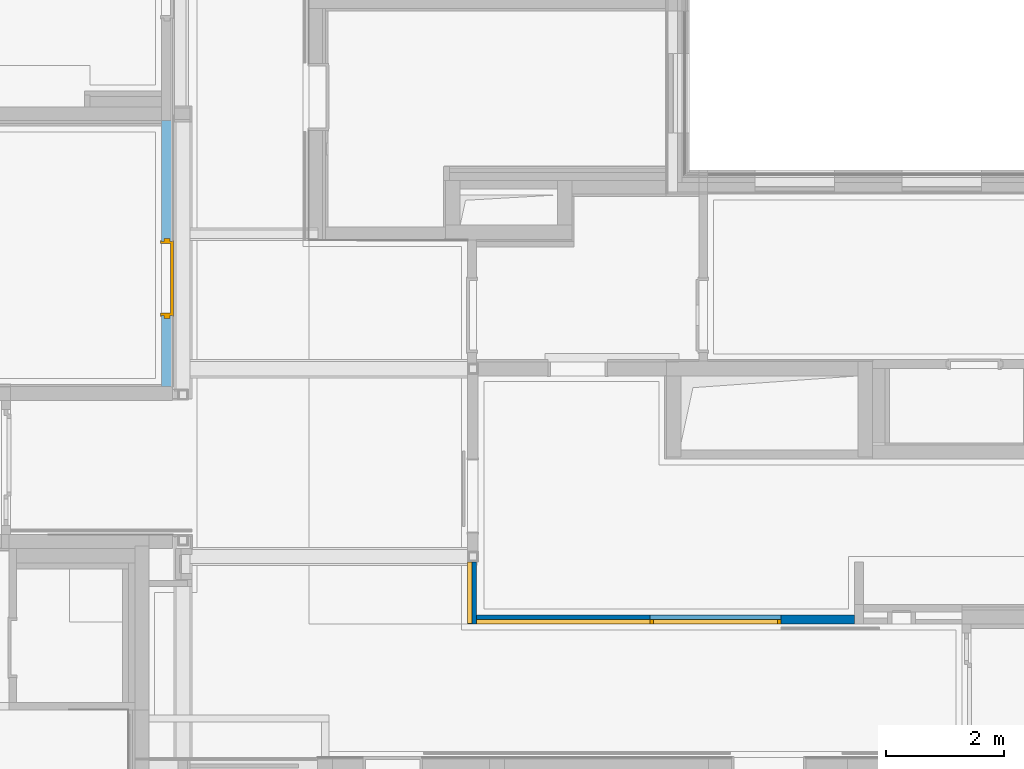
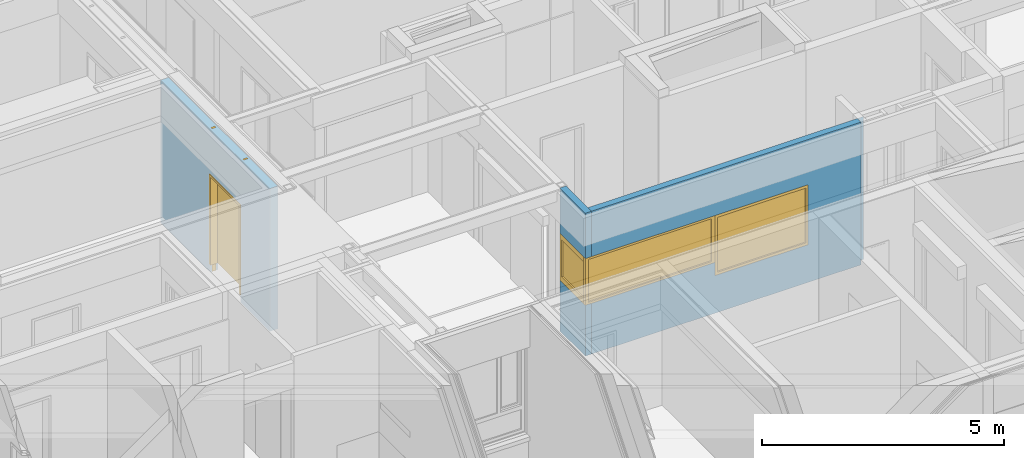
# One storey, part 90 of 207: 3 windows, 2 walls, 1 door, 4 openings, plus 1 element that does not belong to this part.
"""IFC4 building model written with IfcOpenShell, lengths in metres."""

from ifc_helpers import new_model, entity, si_unit, converted_unit, derived_unit, frame, frame_2d, origin, origin_with_axes, place, context, subcontext, project, spatial, polyline, rectangle, outline, extrude, closed_shell, open_shell, faceted_brep, surface_model, source, transform, mapped, material, type_object, element, fill, save


model = new_model("IFC4")

# Units and contexts
model_context = context("Model", 3, precision=1e-05, world=origin())
body_context = subcontext(model_context, "Body", "Model", "MODEL_VIEW")
ifc_project = project(units=[si_unit("LENGTHUNIT", "METRE"), si_unit("AREAUNIT", "SQUARE_METRE"), si_unit("VOLUMEUNIT", "CUBIC_METRE"), si_unit("MASSUNIT", "GRAM", prefix="KILO"), converted_unit("PLANEANGLEUNIT", "DEGREE", entity("IfcPlaneAngleMeasure", 0.0174532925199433), si_unit("PLANEANGLEUNIT", "RADIAN"), dimensions=[0, 0, 0, 0, 0, 0, 0]), derived_unit("THERMALTRANSMITTANCEUNIT", [(si_unit("POWERUNIT", "WATT"), 1), (si_unit("THERMODYNAMICTEMPERATUREUNIT", "KELVIN"), -1), (si_unit("LENGTHUNIT", "METRE"), -2)]), derived_unit("VOLUMETRICFLOWRATEUNIT", [(si_unit("LENGTHUNIT", "METRE"), 3), (converted_unit("TIMEUNIT", "hour", entity("IfcTimeMeasure", 3600.0), si_unit("TIMEUNIT", "SECOND"), dimensions=[0, 0, 1, 0, 0, 0, 0]), -1), (si_unit("LENGTHUNIT", "METRE"), -1)])], contexts=[model_context])

# Site, building, storey
site_placement = place(None, origin())
site = spatial("IfcSite", under=ifc_project, at=site_placement, Name="Psychiatrie Neubau Wunstorf", CompositionType="ELEMENT")
building_placement = place(site_placement, origin())
building = spatial("IfcBuilding", under=site, at=building_placement, Name="Neubau H2 Stationsgebäude", CompositionType="ELEMENT")
storey_placement = place(building_placement, frame((0.0, 0.0, -0.2)))
storey = spatial("IfcBuildingStorey", under=building, at=storey_placement, Name="H2 Ebene 0", CompositionType="ELEMENT", Elevation=-0.2)

# Wall, opening, door
ifc_material_1 = material(Name="WI-LB")
wall_1_placement = place(storey_placement, frame((35.57, 6.844, 0.0), z_axis=(0.0, 0.0, 1.0), x_axis=(0.0, 1.0, 0.0)))
wall_1 = element("IfcWall", 1, at=wall_1_placement, inside=storey, material=ifc_material_1, context=body_context, shape_type="SweptSolid", body=[
    extrude(rectangle(XDim=4.51355754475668, YDim=0.19, at=frame_2d((2.25677877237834, 0.095), x_axis=(1.0, 0.0))), origin_with_axes(), (0.0, 0.0, 1.0), 3.6),
])
opening_1_placement = place(wall_1_placement, frame((2.4660041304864, 0.19, 0.0), z_axis=(0.0, -1.0, 0.0), x_axis=(0.0, 0.0, 1.0)))
opening_1 = element("IfcOpeningElement", 2, at=opening_1_placement, cuts=wall_1, Name="Türöffnung", ObjectType="Opening", context=body_context, shape_type="SweptSolid", body=[
    extrude(outline(polyline([(2.46, 1.26), (2.46, 0.0), (0.0, 0.0), (0.0, 1.26), (2.46, 1.26)])), origin_with_axes(), (0.0, 0.0, 1.0), 0.19),
])
ifc_material_2 = material(Name="TI-1F-UZ-D")
door_type = type_object("IfcDoorType", Name="SMT", OperationType="SINGLE_SWING_RIGHT", ParameterTakesPrecedence=False, PredefinedType="DOOR")
shared_shape_1 = source(origin_with_axes(), body_context, "Body", "Brep", [
    faceted_brep([(1.30999999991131, 0.0449999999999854, 0.0), (1.30999999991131, 0.144999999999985, 0.0), (1.26, 0.144999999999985, 0.0), (1.26, 0.0449999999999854, 0.0), (1.30999999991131, 0.144999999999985, 3.6), (1.30999999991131, 0.0449999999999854, 3.6), (1.26, 0.0449999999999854, 3.6), (1.26, 0.144999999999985, 3.6)], [[[0, 1, 2, 3]], [[4, 5, 6, 7]], [[1, 0, 5, 4]], [[2, 1, 4, 7]], [[3, 2, 7, 6]], [[0, 3, 6, 5]]], orient=[[False], [False], [False], [False], [False], [False]]),
    faceted_brep([(0.0, 0.0449999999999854, 0.0), (0.0, 0.144999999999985, 0.0), (-0.0499999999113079, 0.144999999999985, 0.0), (-0.0499999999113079, 0.0449999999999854, 0.0), (0.0, 0.144999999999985, 3.6), (0.0, 0.0449999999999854, 3.6), (-0.0499999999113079, 0.0449999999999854, 3.6), (-0.0499999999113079, 0.144999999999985, 3.6)], [[[0, 1, 2, 3]], [[4, 5, 6, 7]], [[1, 0, 5, 4]], [[2, 1, 4, 7]], [[3, 2, 7, 6]], [[0, 3, 6, 5]]], orient=[[False], [False], [False], [False], [False], [False]]),
    faceted_brep([(1.26, 0.0449999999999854, 2.46), (1.26, 0.144999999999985, 2.46), (0.0, 0.144999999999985, 2.46), (0.0, 0.0449999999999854, 2.46), (1.26, 0.144999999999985, 2.51), (1.26, 0.0449999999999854, 2.51), (0.0, 0.0449999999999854, 2.51), (0.0, 0.144999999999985, 2.51)], [[[0, 1, 2, 3]], [[4, 5, 6, 7]], [[1, 0, 5, 4]], [[2, 1, 4, 7]], [[3, 2, 7, 6]], [[0, 3, 6, 5]]], orient=[[False], [False], [False], [False], [False], [False]]),
])
shared_shape_2 = source(origin_with_axes(), body_context, "Body", "Brep", [
    faceted_brep([(0.0, -0.0150000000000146, 2.46), (0.0400000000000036, -0.0150000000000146, 2.46), (0.0400000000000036, -0.0150000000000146, 0.2), (0.0, -0.0150000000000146, 0.2), (0.0, 0.204999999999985, 0.2), (0.0400000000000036, 0.204999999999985, 0.2), (0.0400000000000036, 0.204999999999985, 2.46), (0.0, 0.204999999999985, 2.46)], [[[0, 1, 2, 3]], [[4, 5, 6, 7]], [[3, 4, 7, 0]], [[2, 5, 4, 3]], [[1, 6, 5, 2]], [[0, 7, 6, 1]]], orient=[[False], [False], [False], [False], [False], [False]]),
    faceted_brep([(0.0, -0.0150000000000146, 2.475), (0.0, -0.0150000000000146, 0.2), (-0.0149999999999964, -0.0150000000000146, 0.2), (-0.0149999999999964, -0.0150000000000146, 2.475), (0.0, 0.0, 0.2), (0.0, 0.0, 2.475), (-0.0149999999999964, 0.0, 2.475), (-0.0149999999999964, 0.0, 0.2)], [[[0, 1, 2, 3]], [[4, 5, 6, 7]], [[1, 0, 5, 4]], [[2, 1, 4, 7]], [[3, 2, 7, 6]], [[0, 3, 6, 5]]], orient=[[False], [False], [False], [False], [False], [False]]),
    faceted_brep([(0.0, 0.189999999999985, 2.475), (0.0, 0.189999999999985, 0.2), (-0.0149999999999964, 0.189999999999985, 0.2), (-0.0149999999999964, 0.189999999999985, 2.475), (0.0, 0.204999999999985, 0.2), (0.0, 0.204999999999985, 2.475), (-0.0149999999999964, 0.204999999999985, 2.475), (-0.0149999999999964, 0.204999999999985, 0.2)], [[[0, 1, 2, 3]], [[4, 5, 6, 7]], [[1, 0, 5, 4]], [[2, 1, 4, 7]], [[3, 2, 7, 6]], [[0, 3, 6, 5]]], orient=[[False], [False], [False], [False], [False], [False]]),
    faceted_brep([(1.22, -0.0150000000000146, 2.46), (1.26, -0.0150000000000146, 2.46), (1.26, -0.0150000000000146, 0.2), (1.22, -0.0150000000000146, 0.2), (1.22, 0.204999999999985, 0.2), (1.26, 0.204999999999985, 0.2), (1.26, 0.204999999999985, 2.46), (1.22, 0.204999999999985, 2.46)], [[[0, 1, 2, 3]], [[4, 5, 6, 7]], [[3, 4, 7, 0]], [[2, 5, 4, 3]], [[1, 6, 5, 2]], [[0, 7, 6, 1]]], orient=[[False], [False], [False], [False], [False], [False]]),
    faceted_brep([(1.26, -0.0150000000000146, 2.475), (1.275, -0.0150000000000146, 2.475), (1.275, -0.0150000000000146, 0.2), (1.26, -0.0150000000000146, 0.2), (1.26, 0.0, 0.2), (1.275, 0.0, 0.2), (1.275, 0.0, 2.475), (1.26, 0.0, 2.475)], [[[0, 1, 2, 3]], [[4, 5, 6, 7]], [[3, 4, 7, 0]], [[2, 5, 4, 3]], [[1, 6, 5, 2]], [[0, 7, 6, 1]]], orient=[[False], [False], [False], [False], [False], [False]]),
    faceted_brep([(1.26, 0.189999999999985, 2.475), (1.275, 0.189999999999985, 2.475), (1.275, 0.189999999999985, 0.2), (1.26, 0.189999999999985, 0.2), (1.26, 0.204999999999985, 0.2), (1.275, 0.204999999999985, 0.2), (1.275, 0.204999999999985, 2.475), (1.26, 0.204999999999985, 2.475)], [[[0, 1, 2, 3]], [[4, 5, 6, 7]], [[3, 4, 7, 0]], [[2, 5, 4, 3]], [[1, 6, 5, 2]], [[0, 7, 6, 1]]], orient=[[False], [False], [False], [False], [False], [False]]),
    faceted_brep([(0.0400000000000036, -0.0150000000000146, 2.46), (1.22, -0.0150000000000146, 2.46), (1.22, -0.0150000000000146, 2.42), (0.0400000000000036, -0.0150000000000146, 2.42), (0.0400000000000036, 0.204999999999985, 2.42), (1.22, 0.204999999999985, 2.42), (1.22, 0.204999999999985, 2.46), (0.0400000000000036, 0.204999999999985, 2.46)], [[[0, 1, 2, 3]], [[4, 5, 6, 7]], [[3, 4, 7, 0]], [[2, 5, 4, 3]], [[1, 6, 5, 2]], [[0, 7, 6, 1]]], orient=[[False], [False], [False], [False], [False], [False]]),
    faceted_brep([(0.0, -0.0150000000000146, 2.475), (1.26, -0.0150000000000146, 2.475), (1.26, -0.0150000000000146, 2.46), (0.0, -0.0150000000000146, 2.46), (0.0, 0.0, 2.46), (1.26, 0.0, 2.46), (1.26, 0.0, 2.475), (0.0, 0.0, 2.475)], [[[0, 1, 2, 3]], [[4, 5, 6, 7]], [[3, 4, 7, 0]], [[2, 5, 4, 3]], [[1, 6, 5, 2]], [[0, 7, 6, 1]]], orient=[[False], [False], [False], [False], [False], [False]]),
    faceted_brep([(0.0, 0.189999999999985, 2.475), (1.26, 0.189999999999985, 2.475), (1.26, 0.189999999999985, 2.46), (0.0, 0.189999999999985, 2.46), (0.0, 0.204999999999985, 2.46), (1.26, 0.204999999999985, 2.46), (1.26, 0.204999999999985, 2.475), (0.0, 0.204999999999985, 2.475)], [[[0, 1, 2, 3]], [[4, 5, 6, 7]], [[3, 4, 7, 0]], [[2, 5, 4, 3]], [[1, 6, 5, 2]], [[0, 7, 6, 1]]], orient=[[False], [False], [False], [False], [False], [False]]),
    faceted_brep([(0.0250000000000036, 0.155999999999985, 2.435), (1.235, 0.155999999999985, 2.435), (1.235, 0.155999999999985, 0.2), (0.0250000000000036, 0.155999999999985, 0.2), (0.0250000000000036, 0.205999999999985, 0.2), (1.235, 0.205999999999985, 0.2), (1.235, 0.205999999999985, 2.435), (0.0250000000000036, 0.205999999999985, 2.435)], [[[0, 1, 2, 3]], [[4, 5, 6, 7]], [[3, 4, 7, 0]], [[2, 5, 4, 3]], [[1, 6, 5, 2]], [[0, 7, 6, 1]]], orient=[[False], [False], [False], [False], [False], [False]]),
])
door_placement = place(opening_1_placement, frame((0.0, 0.0, 0.0), z_axis=(1.0, 0.0, 0.0), x_axis=(0.0, 1.0, 0.0)))
door = element("IfcDoor", 3, at=door_placement, inside=storey, type_object=door_type, material=ifc_material_2, Name="SMT", OverallHeight=2.46, OverallWidth=1.26, context=body_context, shape_type="MappedRepresentation", body=[
    mapped(shared_shape_1, transform((0.0, 0.0, 0.0), x_axis=(1.0, 0.0, 0.0), y_axis=(0.0, 1.0, 0.0), z_axis=(0.0, 0.0, 1.0), scale=1.0)),
    mapped(shared_shape_2, transform((0.0, 0.0, 0.0), x_axis=(1.0, 0.0, 0.0), y_axis=(0.0, 1.0, 0.0), z_axis=(0.0, 0.0, 1.0), scale=1.0)),
])
fill(opening_1, door)

# Wall, openings, windows
ifc_material_3 = material(Name="WI-RIR")
wall_2_placement = place(storey_placement, frame((40.7249441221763, 2.81750349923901, 0.0)))
wall_2 = element("IfcWall", 4, at=wall_2_placement, inside=storey, material=ifc_material_3, context=body_context, shape_type="Brep", body=[
    faceted_brep([(0.0, 0.000162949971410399, 0.0), (6.41796782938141, 0.0, 0.0), (6.41796782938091, 0.150000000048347, 0.0), (7.61689567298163e-06, 0.150162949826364, 0.0), (0.0, 0.000162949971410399, 3.6), (7.61689567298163e-06, 0.150162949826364, 3.6), (6.41796782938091, 0.150000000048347, 3.6), (6.41796782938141, 0.0, 3.6), (6.41796783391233, 0.149830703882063, 0.0), (6.5679769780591, 0.149996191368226, 0.0), (6.56796782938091, 0.149826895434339, 0.0), (6.41796783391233, 0.149830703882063, 3.6), (6.5679769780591, 0.149996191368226, 3.6), (6.56796782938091, 0.149826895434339, 3.6)], [[[0, 1, 2, 3]], [[4, 5, 6, 7]], [[8, 9, 10]], [[11, 12, 13]], [[0, 4, 7, 1]], [[1, 7, 6, 2]], [[2, 6, 5, 3]], [[3, 5, 4, 0]], [[8, 11, 13, 10]], [[10, 13, 12, 9]], [[9, 12, 13, 10]], [[10, 13, 11, 8]], [[8, 10, 9]], [[11, 13, 12]]], orient=[[False], [False], [False], [False], [False], [False], [False], [False], [False], [False], [False], [False], [False], [False]]),
])
opening_2_placement = place(wall_2_placement, frame((2.94489999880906, 8.81799844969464e-05, 0.950000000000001), z_axis=(2.53896503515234e-05, 0.999999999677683, 0.0), x_axis=(0.0, 0.0, 1.0)))
opening_2 = element("IfcOpeningElement", 5, at=opening_2_placement, cuts=wall_2, Name="Fensteröffnung", ObjectType="Opening", context=body_context, shape_type="SweptSolid", body=[
    extrude(outline(polyline([(1.51, 2.22), (1.51, 0.0), (0.0, 0.0), (0.0, 2.22), (1.51, 2.22)])), origin_with_axes(), (0.0, 0.0, 1.0), 0.149999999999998),
])
opening_3_placement = place(wall_2_placement, frame((-0.15, 0.000166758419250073, 1.28), z_axis=(2.53896547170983e-05, 0.999999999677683, 0.0), x_axis=(0.0, 0.0, 1.0)))
opening_3 = element("IfcOpeningElement", 6, at=opening_3_placement, cuts=wall_2, Name="Fensteröffnung", ObjectType="Opening", context=body_context, shape_type="SweptSolid", body=[
    extrude(outline(polyline([(1.18, 3.09489999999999), (1.18, 0.0), (0.0, 0.0), (0.0, 3.09489999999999), (1.18, 3.09489999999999)])), origin_with_axes(), (0.0, 0.0, 1.0), 0.150000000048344),
])
shared_shape_3 = source(origin_with_axes(), body_context, "Body", "SurfaceModel", [
    surface_model("IfcShellBasedSurfaceModel", [(0.0, 0.0, 0.0), (0.0, 0.0, 1.18), (0.05, 0.0, 1.18), (0.05, 0.0, 0.0), (0.05, 0.05, 1.18), (0.05, 0.05, 0.0), (0.0, 0.05, 1.18), (0.0, 0.05, 0.0)], [closed_shell([[[0, 1, 2, 3]], [[3, 2, 4, 5]], [[5, 4, 6, 7]], [[7, 6, 1, 0]], [[0, 3, 5, 7]], [[1, 6, 4, 2]]], orient=[[False], [False], [False], [False], [False], [False]])]),
    surface_model("IfcShellBasedSurfaceModel", [(1.86263144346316, 0.0, 0.0), (1.86263144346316, 0.0, 1.18), (1.91263144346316, 0.0, 1.18), (1.91263144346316, 0.0, 0.0), (1.91263144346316, 0.05, 1.18), (1.91263144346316, 0.05, 0.0), (1.86263144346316, 0.05, 1.18), (1.86263144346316, 0.05, 0.0)], [closed_shell([[[0, 1, 2, 3]], [[3, 2, 4, 5]], [[5, 4, 6, 7]], [[7, 6, 1, 0]], [[0, 3, 5, 7]], [[1, 6, 4, 2]]], orient=[[False], [False], [False], [False], [False], [False]])]),
    surface_model("IfcShellBasedSurfaceModel", [(0.05, 0.05, 0.0), (0.05, 0.0, 0.0), (1.86263144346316, 0.0, 0.0), (1.86263144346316, 0.05, 0.0), (0.05, 0.0, 0.05), (0.05, 0.05, 0.05), (1.86263144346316, 0.05, 0.05), (1.86263144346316, 0.0, 0.05)], [closed_shell([[[0, 1, 2, 3]], [[4, 5, 6, 7]], [[1, 0, 5, 4]], [[2, 1, 4, 7]], [[3, 2, 7, 6]], [[0, 3, 6, 5]]], orient=[[False], [False], [False], [False], [False], [False]])]),
    surface_model("IfcShellBasedSurfaceModel", [(0.05, 0.05, 1.13), (0.05, 0.0, 1.13), (1.86263144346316, 0.0, 1.13), (1.86263144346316, 0.05, 1.13), (0.05, 0.0, 1.18), (0.05, 0.05, 1.18), (1.86263144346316, 0.05, 1.18), (1.86263144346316, 0.0, 1.18)], [closed_shell([[[0, 1, 2, 3]], [[4, 5, 6, 7]], [[1, 0, 5, 4]], [[2, 1, 4, 7]], [[3, 2, 7, 6]], [[0, 3, 6, 5]]], orient=[[False], [False], [False], [False], [False], [False]])]),
    surface_model("IfcShellBasedSurfaceModel", [(0.05, 0.025, 0.05), (1.86263144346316, 0.025, 0.05), (1.86263144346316, 0.025, 1.13), (0.05, 0.025, 1.13)], [open_shell([[[0, 1, 2, 3]]], orient=[[False]])]),
])
window_1_placement = place(opening_2_placement, frame((0.0, 2.22000000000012, 0.0699999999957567), z_axis=(1.27966101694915, 0.0, 0.0), x_axis=(0.0, -1.16070454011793, 2.20720438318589e-12)))
window_1 = element("IfcWindow", 7, at=window_1_placement, inside=storey, Name="wi_1c_white", OverallHeight=1.51, OverallWidth=2.22, PartitioningType="USERDEFINED", PredefinedType="WINDOW", context=body_context, shape_type="MappedRepresentation", body=[
    mapped(shared_shape_3, transform((0.0, 0.0, 0.0), x_axis=(1.0, 0.0, 0.0), y_axis=(0.0, 1.0, 0.0), z_axis=(0.0, 0.0, 1.0), scale=1.16070454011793, scale2=1.39999999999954, scale3=1.27966101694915, uniform=False)),
])
fill(opening_2, window_1)
shared_shape_4 = source(origin_with_axes(), body_context, "Body", "SurfaceModel", [
    surface_model("IfcShellBasedSurfaceModel", [(0.0, 0.0, 0.0), (0.0, 0.0, 1.18), (0.05, 0.0, 1.18), (0.05, 0.0, 0.0), (0.05, 0.05, 1.18), (0.05, 0.05, 0.0), (0.0, 0.05, 1.18), (0.0, 0.05, 0.0)], [closed_shell([[[0, 1, 2, 3]], [[3, 2, 4, 5]], [[5, 4, 6, 7]], [[7, 6, 1, 0]], [[0, 3, 5, 7]], [[1, 6, 4, 2]]], orient=[[False], [False], [False], [False], [False], [False]])]),
    surface_model("IfcShellBasedSurfaceModel", [(1.86263144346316, 0.0, 0.0), (1.86263144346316, 0.0, 1.18), (1.91263144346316, 0.0, 1.18), (1.91263144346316, 0.0, 0.0), (1.91263144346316, 0.05, 1.18), (1.91263144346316, 0.05, 0.0), (1.86263144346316, 0.05, 1.18), (1.86263144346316, 0.05, 0.0)], [closed_shell([[[0, 1, 2, 3]], [[3, 2, 4, 5]], [[5, 4, 6, 7]], [[7, 6, 1, 0]], [[0, 3, 5, 7]], [[1, 6, 4, 2]]], orient=[[False], [False], [False], [False], [False], [False]])]),
    surface_model("IfcShellBasedSurfaceModel", [(0.05, 0.05, 0.0), (0.05, 0.0, 0.0), (1.86263144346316, 0.0, 0.0), (1.86263144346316, 0.05, 0.0), (0.05, 0.0, 0.05), (0.05, 0.05, 0.05), (1.86263144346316, 0.05, 0.05), (1.86263144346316, 0.0, 0.05)], [closed_shell([[[0, 1, 2, 3]], [[4, 5, 6, 7]], [[1, 0, 5, 4]], [[2, 1, 4, 7]], [[3, 2, 7, 6]], [[0, 3, 6, 5]]], orient=[[False], [False], [False], [False], [False], [False]])]),
    surface_model("IfcShellBasedSurfaceModel", [(0.05, 0.05, 1.13), (0.05, 0.0, 1.13), (1.86263144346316, 0.0, 1.13), (1.86263144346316, 0.05, 1.13), (0.05, 0.0, 1.18), (0.05, 0.05, 1.18), (1.86263144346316, 0.05, 1.18), (1.86263144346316, 0.0, 1.18)], [closed_shell([[[0, 1, 2, 3]], [[4, 5, 6, 7]], [[1, 0, 5, 4]], [[2, 1, 4, 7]], [[3, 2, 7, 6]], [[0, 3, 6, 5]]], orient=[[False], [False], [False], [False], [False], [False]])]),
    surface_model("IfcShellBasedSurfaceModel", [(0.05, 0.025, 0.05), (1.86263144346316, 0.025, 0.05), (1.86263144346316, 0.025, 1.13), (0.05, 0.025, 1.13)], [open_shell([[[0, 1, 2, 3]]], orient=[[False]])]),
])
window_2_placement = place(opening_3_placement, frame((0.0, 3.09489999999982, 0.0700000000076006), z_axis=(1.0, 0.0, 0.0), x_axis=(0.0, -1.61813715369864, -3.98703724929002e-12)))
window_2 = element("IfcWindow", 8, at=window_2_placement, inside=storey, Name="wi_1c_white", OverallHeight=1.18, OverallWidth=3.0949, PartitioningType="USERDEFINED", PredefinedType="WINDOW", context=body_context, shape_type="MappedRepresentation", body=[
    mapped(shared_shape_4, transform((0.0, 0.0, 0.0), x_axis=(1.0, 0.0, 0.0), y_axis=(0.0, 1.0, 0.0), z_axis=(0.0, 0.0, 1.0), scale=1.61813715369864, scale2=1.39999999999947, scale3=1.0, uniform=False)),
])
fill(opening_3, window_2)

# Wall, opening, window
ifc_material_4 = material(Name="WI-RIR")
wall_3_placement = place(storey_placement, frame((40.5749441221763, 2.81766644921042, 0.0)))
wall_3 = element("IfcWall", 9, at=wall_3_placement, inside=storey, material=ifc_material_4, context=body_context, shape_type="Brep", body=[
    faceted_brep([(0.150007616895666, 0.149999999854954, 2.46), (0.150007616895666, 0.149999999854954, 1.28), (7.61689566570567e-06, 0.150003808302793, 1.28), (7.61689566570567e-06, 0.150003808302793, 2.46), (0.0, 3.8084478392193e-06, 2.46), (0.15, 0.0, 2.46), (0.15, 0.0, 1.28), (0.0, 3.8084478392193e-06, 1.28), (0.0, 3.8084478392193e-06, 3.6), (0.15, 0.0, 3.6), (0.150053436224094, 1.05232288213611, 3.6), (0.150053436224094, 1.05232288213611, 0.0), (0.15, 0.0, 0.0), (0.0, 3.8084478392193e-06, 0.0), (5.3436417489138e-05, 1.05233049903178, 0.0), (5.3436417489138e-05, 1.05233049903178, 3.6)], [[[0, 1, 2, 3]], [[4, 5, 0, 3]], [[2, 1, 6, 7]], [[4, 8, 9, 5]], [[5, 9, 10, 11, 12, 6, 1, 0]], [[6, 12, 13, 7]], [[3, 2, 7, 13, 14, 15, 8, 4]], [[14, 11, 10, 15]], [[15, 10, 9, 8]], [[11, 14, 13, 12]]], orient=[[False], [False], [False], [False], [False], [False], [False], [False], [False], [False]]),
])
opening_4_placement = place(wall_3_placement, frame((5.3436417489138e-05, 1.05233049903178, 1.28), z_axis=(0.999999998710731, -5.07793044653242e-05, 0.0), x_axis=(0.0, 0.0, 1.0)))
opening_4 = element("IfcOpeningElement", 10, at=opening_4_placement, cuts=wall_3, Name="Fensteröffnung", ObjectType="Opening", context=body_context, shape_type="SweptSolid", body=[
    extrude(outline(polyline([(1.18, 1.05), (1.18, 0.0), (0.0, 0.0), (0.0, 1.05), (1.18, 1.05)])), origin_with_axes(), (0.0, 0.0, 1.0), 0.149999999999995),
])
shared_shape_5 = source(origin_with_axes(), body_context, "Body", "SurfaceModel", [
    surface_model("IfcShellBasedSurfaceModel", [(0.0, 0.0, 0.0), (0.0, 0.0, 1.18), (0.12, 0.0, 1.18), (0.12, 0.0, 0.0), (0.12, 0.06, 1.18), (0.12, 0.06, 0.0), (0.0, 0.06, 1.18), (0.0, 0.06, 0.0)], [closed_shell([[[0, 1, 2, 3]], [[3, 2, 4, 5]], [[5, 4, 6, 7]], [[7, 6, 1, 0]], [[0, 3, 5, 7]], [[1, 6, 4, 2]]], orient=[[False], [False], [False], [False], [False], [False]])]),
    surface_model("IfcShellBasedSurfaceModel", [(1.79263144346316, 0.0, 0.0), (1.79263144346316, 0.0, 1.18), (1.91263144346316, 0.0, 1.18), (1.91263144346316, 0.0, 0.0), (1.91263144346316, 0.06, 1.18), (1.91263144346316, 0.06, 0.0), (1.79263144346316, 0.06, 1.18), (1.79263144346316, 0.06, 0.0)], [closed_shell([[[0, 1, 2, 3]], [[3, 2, 4, 5]], [[5, 4, 6, 7]], [[7, 6, 1, 0]], [[0, 3, 5, 7]], [[1, 6, 4, 2]]], orient=[[False], [False], [False], [False], [False], [False]])]),
    surface_model("IfcShellBasedSurfaceModel", [(0.12, 0.06, 0.0), (0.12, 0.0, 0.0), (1.79263144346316, 0.0, 0.0), (1.79263144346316, 0.06, 0.0), (0.12, 0.0, 0.12), (0.12, 0.06, 0.12), (1.79263144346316, 0.06, 0.12), (1.79263144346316, 0.0, 0.12)], [closed_shell([[[0, 1, 2, 3]], [[4, 5, 6, 7]], [[1, 0, 5, 4]], [[2, 1, 4, 7]], [[3, 2, 7, 6]], [[0, 3, 6, 5]]], orient=[[False], [False], [False], [False], [False], [False]])]),
    surface_model("IfcShellBasedSurfaceModel", [(0.12, 0.06, 1.06), (0.12, 0.0, 1.06), (1.79263144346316, 0.0, 1.06), (1.79263144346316, 0.06, 1.06), (0.12, 0.0, 1.18), (0.12, 0.06, 1.18), (1.79263144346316, 0.06, 1.18), (1.79263144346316, 0.0, 1.18)], [closed_shell([[[0, 1, 2, 3]], [[4, 5, 6, 7]], [[1, 0, 5, 4]], [[2, 1, 4, 7]], [[3, 2, 7, 6]], [[0, 3, 6, 5]]], orient=[[False], [False], [False], [False], [False], [False]])]),
    surface_model("IfcShellBasedSurfaceModel", [(0.12, 0.03, 0.12), (1.79263144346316, 0.03, 0.12), (1.79263144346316, 0.03, 1.06), (0.12, 0.03, 1.06)], [open_shell([[[0, 1, 2, 3]]], orient=[[False]])]),
])
window_3_placement = place(opening_4_placement, frame((0.0, 1.05, 0.0789999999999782), z_axis=(1.0, 0.0, 0.0), x_axis=(0.0, -0.548981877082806, 2.56434142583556e-16)))
window_3 = element("IfcWindow", 11, at=window_3_placement, inside=storey, Name="wi_1c_white", OverallHeight=1.18, OverallWidth=1.05, PartitioningType="USERDEFINED", PredefinedType="WINDOW", context=body_context, shape_type="MappedRepresentation", body=[
    mapped(shared_shape_5, transform((0.0, 0.0, 0.0), x_axis=(1.0, 0.0, 0.0), y_axis=(0.0, 1.0, 0.0), z_axis=(0.0, 0.0, 1.0), scale=0.548981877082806, scale2=1.30000000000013, scale3=1.0, uniform=False)),
])
fill(opening_4, window_3)

save(model, "model.ifc")
